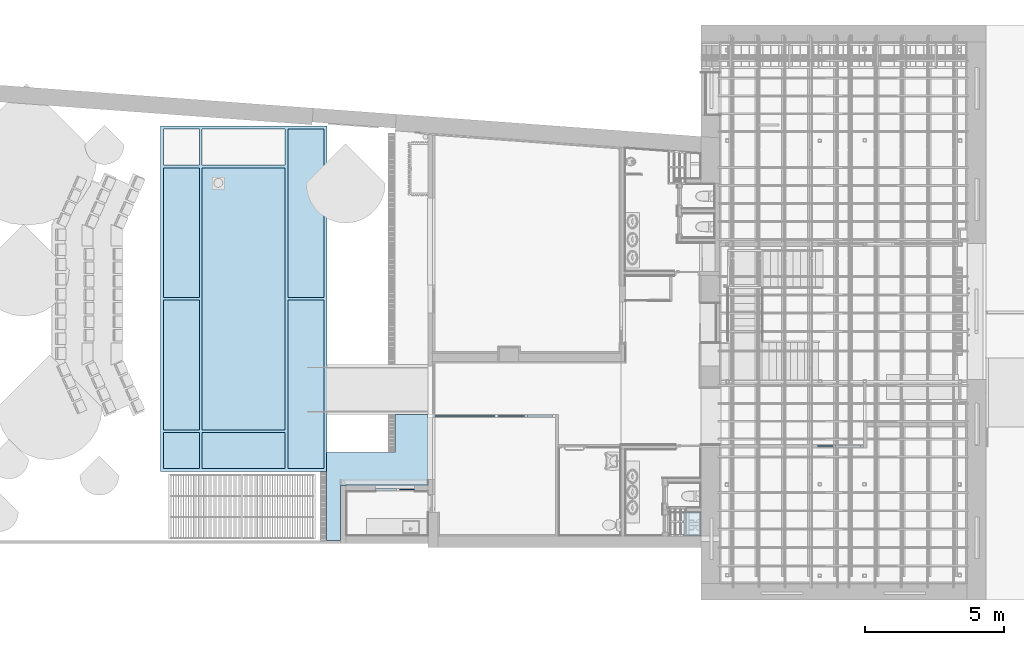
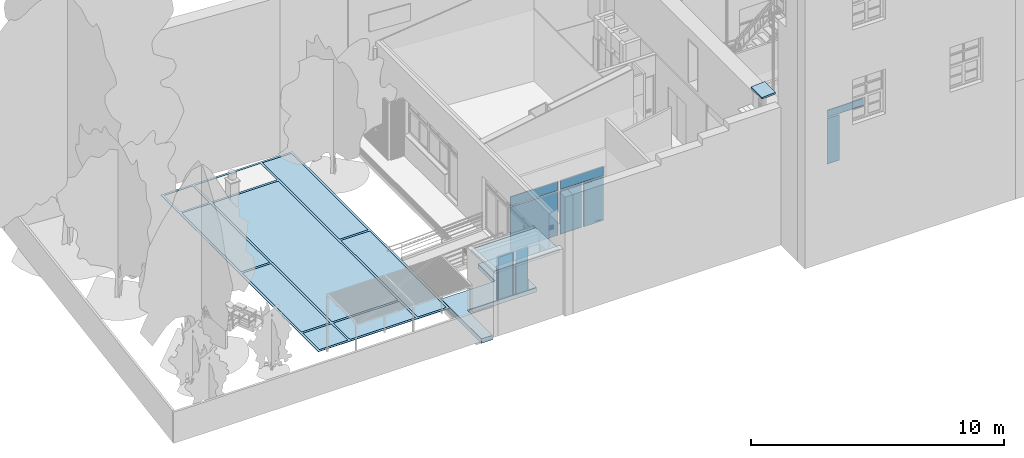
# One storey, part 30 of 75: 12 slabs, 9 plates, 9 openings, 5 elements without a shape of their own.
"""IFC2X3 building model written with IfcOpenShell, lengths in metres."""

import ifcopenshell
import ifcopenshell.guid

model = None  # the IFC model being written
_history = None  # IfcOwnerHistory: only IFC2X3 demands one
_inside = {}  # id of a spatial element -> (the spatial element, [elements in it])
_under = {}  # id of a project, library or spatial element -> (it, [spatial elements below it])
_declared = {}  # id of a project -> (the project, [libraries it declares])
_typed = {}  # id of a type object -> (the type object, [elements of that type])
_made_of = {}  # id of a material, layer set ... -> (it, [elements and type objects made of it])


def new_model(schema):
    """Start an empty IFC model of exactly this schema.

    Asked for "IFC4X3", IfcOpenShell would pick the latest addendum, in which some entities
    have other attributes; the version numbers below select the first issue.
    IFC2X3 requires an IfcOwnerHistory on every rooted entity: one is made here for all.
    """
    global model, _history
    if schema == "IFC4X3":
        model = ifcopenshell.file(schema_version=(4, 3, 0, 0))
    else:
        model = ifcopenshell.file(schema=schema)
    _inside.clear()
    _under.clear()
    _declared.clear()
    _typed.clear()
    _made_of.clear()
    _history = None
    if model.schema == "IFC2X3":
        org = make("IfcOrganization", Name="unknown")
        user = make(
            "IfcPersonAndOrganization",
            ThePerson=make("IfcPerson", FamilyName="unknown"),
            TheOrganization=org,
        )
        app = make(
            "IfcApplication",
            ApplicationDeveloper=org,
            Version="unknown",
            ApplicationFullName="unknown",
            ApplicationIdentifier="unknown",
        )
        _history = make(
            "IfcOwnerHistory",
            OwningUser=user,
            OwningApplication=app,
            ChangeAction="ADDED",
            CreationDate=0,
        )
    return model


def make(cls, **values):
    """One entity of the class cls with the attributes given. An attribute that is None is left unset."""
    return model.create_entity(
        cls, **{name: value for name, value in values.items() if value is not None}
    )


def entity(cls, *values):
    """Any entity or typed value of the class cls, its attributes in the order of the schema. None: left unset."""
    e = model.create_entity(cls)
    for i, value in enumerate(values):
        if value is not None:
            e[i] = value
    return e


def rooted(cls, **values):
    """An entity with a GlobalId (a new one), such as an element, a storey or a relation."""
    return make(cls, GlobalId=ifcopenshell.guid.new(), OwnerHistory=_history, **values)


def si_unit(unit_type, name, prefix=None):
    """IfcSIUnit, for example si_unit("LENGTHUNIT", "METRE", prefix="MILLI")."""
    return make("IfcSIUnit", UnitType=unit_type, Prefix=prefix, Name=name)


def converted_unit(unit_type, name, factor, base, dimensions=None, offset=None):
    """IfcConversionBasedUnit, such as the inch: factor (a typed value) times the base unit."""
    return make(
        "IfcConversionBasedUnit"
        if offset is None
        else "IfcConversionBasedUnitWithOffset",
        ConversionOffset=offset,
        Dimensions=None
        if dimensions is None
        else entity("IfcDimensionalExponents", *dimensions),
        UnitType=unit_type,
        Name=name,
        ConversionFactor=make(
            "IfcMeasureWithUnit", ValueComponent=factor, UnitComponent=base
        ),
    )


def derived_unit(unit_type, elements):
    """IfcDerivedUnit: a product of units, each with its exponent."""
    return make(
        "IfcDerivedUnit",
        Elements=[
            make("IfcDerivedUnitElement", Unit=unit, Exponent=power)
            for unit, power in elements
        ],
        UnitType=unit_type,
    )


def assignment(units):
    """IfcUnitAssignment: the units of a project."""
    return None if units is None else make("IfcUnitAssignment", Units=units)


def point(xyz):
    """IfcCartesianPoint."""
    return None if xyz is None else make("IfcCartesianPoint", Coordinates=xyz)


def direction(xyz):
    """IfcDirection."""
    return None if xyz is None else make("IfcDirection", DirectionRatios=xyz)


def frame(location, z_axis=None, x_axis=None):
    """IfcAxis2Placement3D, a coordinate frame: its origin and axes. An axis left out is left unset."""
    return make(
        "IfcAxis2Placement3D",
        Location=point(location),
        Axis=direction(z_axis),
        RefDirection=direction(x_axis),
    )


def frame_2d(location, x_axis=None):
    """IfcAxis2Placement2D, a coordinate frame in the plane: its origin and x axis."""
    return make(
        "IfcAxis2Placement2D", Location=point(location), RefDirection=direction(x_axis)
    )


def origin():
    """The frame at (0, 0, 0) with its axes left unset."""
    return frame((0.0, 0.0, 0.0))


def origin_2d_with_axis():
    """The frame at (0, 0) in the plane with the x axis (1, 0) written out."""
    return frame_2d((0.0, 0.0), x_axis=(1.0, 0.0))


def place(relative_to, where):
    """IfcLocalPlacement: puts the frame where relative to a parent placement (None: the world)."""
    return make(
        "IfcLocalPlacement", PlacementRelTo=relative_to, RelativePlacement=where
    )


def context(
    kind, dimensions, precision=None, world=None, true_north=None, identifier=None
):
    """IfcGeometricRepresentationContext, for example the 3D "Model" context."""
    return make(
        "IfcGeometricRepresentationContext",
        ContextIdentifier=identifier,
        ContextType=kind,
        CoordinateSpaceDimension=dimensions,
        Precision=precision,
        WorldCoordinateSystem=world,
        TrueNorth=true_north,
    )


def subcontext(parent, identifier, kind, view, scale=None):
    """IfcGeometricRepresentationSubContext, for example "Body" below "Model"."""
    return make(
        "IfcGeometricRepresentationSubContext",
        ContextIdentifier=identifier,
        ContextType=kind,
        ParentContext=parent,
        TargetScale=scale,
        TargetView=view,
    )


def project(units=None, contexts=None):
    """IfcProject with its units and contexts."""
    return rooted(
        "IfcProject",
        Name="project",
        RepresentationContexts=contexts,
        UnitsInContext=assignment(units),
    )


def spatial(cls, under=None, at=None, **own):
    """A site, building, storey or space (cls), placed at a placement, below another one or the project."""
    s = rooted(cls, ObjectPlacement=at, **own)
    if under is not None:
        _under.setdefault(under.id(), (under, []))[1].append(s)
    return s


def polyline(points):
    """IfcPolyline through the points."""
    return make("IfcPolyline", Points=[point(p) for p in points])


def profile(cls, at=None, kind="AREA", **sizes):
    """A parametric profile (cls). Its sizes go by their IFC names, for example OverallWidth=200.0."""
    return make(cls, ProfileType=kind, Position=at, **sizes)


def rectangle(**sizes):
    """IfcRectangleProfileDef."""
    return profile("IfcRectangleProfileDef", **sizes)


def outline(outer, holes=None, kind="AREA"):
    """IfcArbitraryClosedProfileDef: a profile drawn as a closed curve; with holes, ...WithVoids."""
    if holes is None:
        return make("IfcArbitraryClosedProfileDef", ProfileType=kind, OuterCurve=outer)
    return make(
        "IfcArbitraryProfileDefWithVoids",
        ProfileType=kind,
        OuterCurve=outer,
        InnerCurves=holes,
    )


def extrude(swept, where, along, depth):
    """IfcExtrudedAreaSolid: the profile swept, set in the frame where, extruded along a direction by depth."""
    return make(
        "IfcExtrudedAreaSolid",
        SweptArea=swept,
        Position=where,
        ExtrudedDirection=direction(along),
        Depth=depth,
    )


def shape(context_of_items, identifier, shape_type, items):
    """IfcShapeRepresentation: the items that make up one representation, for example the "Body"."""
    return make(
        "IfcShapeRepresentation",
        ContextOfItems=context_of_items,
        RepresentationIdentifier=identifier,
        RepresentationType=shape_type,
        Items=items,
    )


def source(mapping_origin, context_of_items, identifier, shape_type, items):
    """IfcRepresentationMap: a shape defined once, which mapped items show again and again."""
    return make(
        "IfcRepresentationMap",
        MappingOrigin=mapping_origin,
        MappedRepresentation=shape(context_of_items, identifier, shape_type, items),
    )


def transform(
    local_origin,
    x_axis=None,
    y_axis=None,
    z_axis=None,
    scale=None,
    scale2=None,
    scale3=None,
    uniform=True,
):
    """IfcCartesianTransformationOperator3D, or its non-uniform kind. x_axis, y_axis, z_axis: its Axis1, 2, 3."""
    if uniform:
        return make(
            "IfcCartesianTransformationOperator3D",
            Axis1=direction(x_axis),
            Axis2=direction(y_axis),
            LocalOrigin=point(local_origin),
            Scale=scale,
            Axis3=direction(z_axis),
        )
    return make(
        "IfcCartesianTransformationOperator3DnonUniform",
        Axis1=direction(x_axis),
        Axis2=direction(y_axis),
        LocalOrigin=point(local_origin),
        Scale=scale,
        Axis3=direction(z_axis),
        Scale2=scale2,
        Scale3=scale3,
    )


def mapped(mapping_source, mapping_target):
    """IfcMappedItem: shows the shape of a source again, moved by a transform."""
    return make(
        "IfcMappedItem", MappingSource=mapping_source, MappingTarget=mapping_target
    )


def material(Name=None, Category=None):
    """IfcMaterial."""
    return make("IfcMaterial", Name=Name, Category=Category)


def material_list(materials):
    """IfcMaterialList."""
    return make("IfcMaterialList", Materials=materials)


def layer(
    of_material, thickness, ventilated=None, Name=None, Category=None, Priority=None
):
    """IfcMaterialLayer: one layer of a wall or slab, of a material (None: an air gap)."""
    return make(
        "IfcMaterialLayer",
        Material=of_material,
        LayerThickness=thickness,
        IsVentilated=ventilated,
        Name=Name,
        Category=Category,
        Priority=Priority,
    )


def layer_set(layers, Name=None):
    """IfcMaterialLayerSet."""
    return make("IfcMaterialLayerSet", MaterialLayers=layers, LayerSetName=Name)


def layer_usage(for_layer_set, set_direction, sense, offset, extent=None):
    """IfcMaterialLayerSetUsage: how a layer set lies in its element."""
    return make(
        "IfcMaterialLayerSetUsage",
        ForLayerSet=for_layer_set,
        LayerSetDirection=set_direction,
        DirectionSense=sense,
        OffsetFromReferenceLine=offset,
        ReferenceExtent=extent,
    )


def made_of(thing, what):
    """Note that an element or type object is made of a material, layer set ...; save() writes the relation."""
    if what is not None:
        _made_of.setdefault(what.id(), (what, []))[1].append(thing)
    return thing


def type_object(cls, material=None, **own):
    """A type object (cls), such as IfcWallType, which elements share."""
    return made_of(rooted(cls, **own), material)


def type_shapes(of_type, sources):
    """Give a type object the sources (RepresentationMaps) that its elements show as mapped items."""
    of_type.RepresentationMaps = sources


def element(
    cls,
    number,
    at=None,
    inside=None,
    cuts=None,
    type_object=None,
    material=None,
    context=None,
    identifier="Body",
    shape_type=None,
    held_by="IfcProductDefinitionShape",
    body=None,
    shapes=None,
    **own,
):
    """One element of the class cls, such as IfcWall. Its Tag is "e" and its number.

    at: its placement. inside: the storey or other place that contains it. cuts: it is an
    opening in that element (IfcRelVoidsElement). A single representation is given by context,
    identifier, shape_type and body (its items); several are given by shapes. held_by: the class
    of the entity that holds the representations. save() writes the other relations.
    """
    e = rooted(cls, Tag="e%d" % number, ObjectPlacement=at, **own)
    if body is not None:
        shapes = [shape(context, identifier, shape_type, body)]
    if shapes is not None:
        e.Representation = make(held_by, Representations=shapes)
    if inside is not None:
        _inside.setdefault(inside.id(), (inside, []))[1].append(e)
    if cuts is not None:
        rooted(
            "IfcRelVoidsElement", RelatingBuildingElement=cuts, RelatedOpeningElement=e
        )
    if type_object is not None:
        _typed.setdefault(type_object.id(), (type_object, []))[1].append(e)
    return made_of(e, material)


def aggregate(whole, parts):
    """IfcRelAggregates: a whole, such as a stair, and the parts it consists of."""
    return rooted("IfcRelAggregates", RelatingObject=whole, RelatedObjects=parts)


def save(model, path):
    """Write the relations noted so far, then the file.

    IfcRelAggregates (storeys below a building ...), IfcRelContainedInSpatialStructure (elements
    in a storey), IfcRelDefinesByType, IfcRelAssociatesMaterial and IfcRelDeclares: one each for
    every whole, place, type object, material and project.
    """
    for whole, parts in _under.values():
        aggregate(whole, parts)
    for where, things in _inside.values():
        rooted(
            "IfcRelContainedInSpatialStructure",
            RelatedElements=things,
            RelatingStructure=where,
        )
    for kind, things in _typed.values():
        rooted("IfcRelDefinesByType", RelatedObjects=things, RelatingType=kind)
    for what, things in _made_of.values():
        rooted("IfcRelAssociatesMaterial", RelatedObjects=things, RelatingMaterial=what)
    for by, libraries in _declared.values():
        rooted("IfcRelDeclares", RelatingContext=by, RelatedDefinitions=libraries)
    model.write(path)


model = new_model("IFC2X3")

# Units and contexts
model_context = context("Model", 3, precision=1e-05, world=origin(), true_north=direction((6.12303176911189e-17, 1.0)))
body_context = subcontext(model_context, "Body", "Model", "MODEL_VIEW")
ifc_project = project(units=[si_unit("LENGTHUNIT", "METRE"), si_unit("AREAUNIT", "SQUARE_METRE"), si_unit("VOLUMEUNIT", "CUBIC_METRE"), converted_unit("PLANEANGLEUNIT", "DEGREE", entity("IfcRatioMeasure", 0.0174532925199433), si_unit("PLANEANGLEUNIT", "RADIAN"), dimensions=[0, 0, 0, 0, 0, 0, 0]), si_unit("MASSUNIT", "GRAM", prefix="KILO"), derived_unit("MASSDENSITYUNIT", [(si_unit("MASSUNIT", "GRAM", prefix="KILO"), 1), (si_unit("LENGTHUNIT", "METRE"), -3)]), derived_unit("MOMENTOFINERTIAUNIT", [(si_unit("LENGTHUNIT", "METRE"), 4)]), si_unit("TIMEUNIT", "SECOND"), si_unit("FREQUENCYUNIT", "HERTZ"), si_unit("THERMODYNAMICTEMPERATUREUNIT", "DEGREE_CELSIUS"), derived_unit("THERMALTRANSMITTANCEUNIT", [(si_unit("MASSUNIT", "GRAM", prefix="KILO"), 1), (si_unit("THERMODYNAMICTEMPERATUREUNIT", "KELVIN"), -1), (si_unit("TIMEUNIT", "SECOND"), -3)]), derived_unit("VOLUMETRICFLOWRATEUNIT", [(si_unit("LENGTHUNIT", "METRE"), 3), (si_unit("TIMEUNIT", "SECOND"), -1)]), si_unit("ELECTRICCURRENTUNIT", "AMPERE"), si_unit("ELECTRICVOLTAGEUNIT", "VOLT"), si_unit("POWERUNIT", "WATT"), si_unit("FORCEUNIT", "NEWTON", prefix="KILO"), si_unit("ILLUMINANCEUNIT", "LUX"), si_unit("LUMINOUSFLUXUNIT", "LUMEN"), si_unit("LUMINOUSINTENSITYUNIT", "CANDELA"), derived_unit("USERDEFINED", [(si_unit("MASSUNIT", "GRAM", prefix="KILO"), -1), (si_unit("LENGTHUNIT", "METRE"), -2), (si_unit("TIMEUNIT", "SECOND"), 3), (si_unit("LUMINOUSFLUXUNIT", "LUMEN"), 1)]), derived_unit("LINEARVELOCITYUNIT", [(si_unit("LENGTHUNIT", "METRE"), 1), (si_unit("TIMEUNIT", "SECOND"), -1)]), si_unit("PRESSUREUNIT", "PASCAL"), derived_unit("USERDEFINED", [(si_unit("LENGTHUNIT", "METRE"), -2), (si_unit("MASSUNIT", "GRAM", prefix="KILO"), 1), (si_unit("TIMEUNIT", "SECOND"), -2)]), derived_unit("LINEARFORCEUNIT", [(si_unit("MASSUNIT", "GRAM", prefix="KILO"), 1), (si_unit("LENGTHUNIT", "METRE"), 1), (si_unit("TIMEUNIT", "SECOND"), -2), (si_unit("LENGTHUNIT", "METRE"), -1)]), derived_unit("PLANARFORCEUNIT", [(si_unit("MASSUNIT", "GRAM", prefix="KILO"), 1), (si_unit("LENGTHUNIT", "METRE"), 1), (si_unit("TIMEUNIT", "SECOND"), -2), (si_unit("LENGTHUNIT", "METRE"), -2)])], contexts=[model_context])

# Site, building, storey
site_placement = place(None, origin())
site = spatial("IfcSite", under=ifc_project, at=site_placement, Name="Superficie", CompositionType="ELEMENT")
building_placement = place(site_placement, origin())
building = spatial("IfcBuilding", under=site, at=building_placement, Name="Telegestiones", CompositionType="ELEMENT")
storey_placement = place(building_placement, origin())
storey = spatial("IfcBuildingStorey", under=building, at=storey_placement, Name="Nivel 0_NPT", CompositionType="ELEMENT", Elevation=0.0)

# Roof, slab
roof_1_placement = place(storey_placement, frame((-7.44518737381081, -4.086392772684, 2.55)))
roof_1 = element("IfcRoof", 1, at=roof_1_placement, inside=storey, Name="Cubierta básica:ARQ-CU-EX-15-Iso", ObjectType="Cubierta básica:ARQ-CU-EX-15-Iso", ShapeType="NOTDEFINED")
ifc_material_1 = material(Name="Plástico, blanco opaco")
ifc_layer_1 = layer(ifc_material_1, 0.01)
ifc_material_2 = material(Name="EIFS, aislamiento exterior")
ifc_layer_2 = layer(ifc_material_2, 0.13)
ifc_layer_3 = layer(ifc_material_1, 0.01)
ifc_layer_set_1 = layer_set([ifc_layer_1, ifc_layer_2, ifc_layer_3], Name="Cubierta básica:ARQ-CU-EX-15-Iso")
slab_type_1 = type_object("IfcSlabType", Name="Cubierta básica:ARQ-CU-EX-15-Iso", PredefinedType="ROOF")
slab_1_placement = place(roof_1_placement, origin())
slab_1 = element("IfcSlab", 2, at=slab_1_placement, type_object=slab_type_1, material=ifc_layer_set_1, Name="Cubierta básica:ARQ-CU-EX-15-Iso", ObjectType="Cubierta básica:ARQ-CU-EX-15-Iso", PredefinedType="ROOF", context=body_context, shape_type="SweptSolid", body=[
    extrude(rectangle(XDim=1.86232354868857, YDim=2.95999999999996, at=frame_2d((0.0, 2.77555756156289e-16), x_axis=(0.0, 1.0))), frame((1.47999999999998, 0.93, 0.0465000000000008), z_axis=(0.0, 0.0499376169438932, 0.998752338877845), x_axis=(1.0, 0.0, 0.0)), (0.0, -0.0499376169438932, 0.998752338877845), 0.150187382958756),
])
aggregate(roof_1, [slab_1])

# Slab
ifc_material_3 = material(Name="Baldosones de hormigón 40x40")
ifc_layer_4 = layer(ifc_material_3, 0.02)
ifc_layer_set_2 = layer_set([ifc_layer_4], Name="Suelo:ARQ-SU-EX-2x40x40-BaldHorm")
ifc_layer_usage_1 = layer_usage(ifc_layer_set_2, "AXIS3", "POSITIVE", 0.0)
slab_type_2 = type_object("IfcSlabType", Name="Suelo:ARQ-SU-EX-2x40x40-BaldHorm", PredefinedType="FLOOR")
slab_2_placement = place(storey_placement, frame((-8.14518737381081, -4.25639277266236, -0.17)))
element("IfcSlab", 3, at=slab_2_placement, inside=storey, type_object=slab_type_2, material=ifc_layer_usage_1, Name="Suelo:ARQ-SU-EX-2x40x40-BaldHorm", ObjectType="Suelo:ARQ-SU-EX-2x40x40-BaldHorm", PredefinedType="FLOOR", context=body_context, shape_type="SweptSolid", body=[
    extrude(outline(polyline([(-0.629999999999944, -2.84388084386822), (-1.82999999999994, -2.84388084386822), (-1.82999999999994, -5.40388084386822), (1.32999999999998, -5.40388084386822), (1.32999999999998, -7.39388084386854), (1.82999999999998, -7.39388084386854), (1.82999999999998, -4.89249466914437), (1.82999999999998, -4.21388084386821), (-0.629999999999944, -4.21388084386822), (-0.629999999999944, -2.84388084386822)])), frame((1.82999999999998, 7.39388084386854, 0.02), z_axis=(0.0, 0.0, -1.0), x_axis=(-1.0, 0.0, 0.0)), (0.0, 0.0, 1.0), 0.02),
])

# Curtain wall, plates
curtain_wall_type_1 = type_object("IfcCurtainWallType", PredefinedType="NOTDEFINED")
curtain_wall_1_placement = place(storey_placement, origin())
curtain_wall_1 = element("IfcCurtainWall", 4, at=curtain_wall_1_placement, inside=storey, type_object=curtain_wall_type_1)
ifc_material_4 = material(Name="Aluminio")
ifc_material_5 = material(Name="Vidrio")
ifc_material_list_1 = material_list([ifc_material_4, ifc_material_5, ifc_material_4, ifc_material_4])
ifc_material_list_2 = material_list([ifc_material_4, ifc_material_5])
plate_type_1 = type_object("IfcPlateType", Name="ARQ-PA-IN-AluVid-Puerta:ARQ-PA-IN-AluVid-Puerta", PredefinedType="CURTAIN_PANEL", material=ifc_material_list_2)
shared_shape_1 = source(origin(), body_context, "Body", "SweptSolid", [
    extrude(outline(polyline([(-0.375000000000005, -1.06), (0.374999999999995, -1.06), (0.374999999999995, 1.04), (0.335000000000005, 1.04), (0.335000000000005, -1.02), (-0.334999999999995, -1.02), (-0.334999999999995, 1.04), (-0.375000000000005, 1.04), (-0.375000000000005, -1.06)])), frame((0.0, -0.033, 1.04), z_axis=(0.0, 1.0, 0.0), x_axis=(1.0, 0.0, 0.0)), (0.0, 0.0, 1.0), 0.066),
    extrude(rectangle(XDim=0.489999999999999, YDim=0.015, at=frame_2d((0.0, -8.67361737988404e-19), x_axis=(1.0, 0.0))), frame((0.0, -0.0175, 0.0900000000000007), z_axis=(0.0, 0.0, 1.0), x_axis=(-1.0, 0.0, 0.0)), (0.0, 0.0, 1.0), 1.88),
    extrude(outline(polyline([(-0.265, -0.96), (0.265, -0.96), (0.265, 0.96), (-0.265, 0.96), (-0.265, -0.96)]), holes=[polyline([(-0.245, -0.94), (-0.245, 0.94), (0.245, 0.94), (0.245, -0.94), (-0.245, -0.94)])]), frame((0.0, -0.03, 1.03), z_axis=(0.0, 1.0, 0.0), x_axis=(1.0, 0.0, 0.0)), (0.0, 0.0, 1.0), 0.025),
    extrude(outline(polyline([(-0.335, -1.03), (0.335, -1.03), (0.335, 1.03), (-0.335, 1.03), (-0.335, -1.03)]), holes=[polyline([(-0.265, -0.96), (-0.265, 0.96), (0.265, 0.96), (0.265, -0.96), (-0.265, -0.96)])]), frame((0.0, -0.035, 1.03), z_axis=(0.0, 1.0, 0.0), x_axis=(1.0, 0.0, 0.0)), (0.0, 0.0, 1.0), 0.035),
])
type_shapes(plate_type_1, [shared_shape_1])
plate_1_placement = place(curtain_wall_1_placement, frame((-6.0001873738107, -2.41639277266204, -0.02), z_axis=(0.0, 0.0, 1.0), x_axis=(-1.0, 0.0, 0.0)))
plate_1 = element("IfcPlate", 5, at=plate_1_placement, type_object=plate_type_1, material=ifc_material_list_1, Name="ARQ-PA-IN-AluVid-Puerta:ARQ-PA-IN-AluVid-Puerta", ObjectType="ARQ-PA-IN-AluVid-Puerta:ARQ-PA-IN-AluVid-Puerta", context=body_context, shape_type="MappedRepresentation", body=[
    mapped(shared_shape_1, transform((0.0, 0.0, 0.0), scale=1.0)),
])
ifc_material_list_3 = material_list([ifc_material_5, ifc_material_4])
ifc_material_list_4 = material_list([ifc_material_5, ifc_material_4])
plate_type_2 = type_object("IfcPlateType", Name="ARQ-PA-IN-Vidrio Fijo:ARQ-PA-IN-Vidrio Fijo", PredefinedType="CURTAIN_PANEL", material=ifc_material_list_4)
shared_shape_2 = source(origin(), body_context, "Body", "SweptSolid", [
    extrude(rectangle(XDim=0.550000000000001, YDim=0.02, at=origin_2d_with_axis()), frame((0.0, 0.0, 0.0), z_axis=(0.0, 0.0, 1.0), x_axis=(-1.0, 0.0, 0.0)), (0.0, 0.0, 1.0), 2.1),
    extrude(outline(polyline([(-0.275000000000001, -1.05), (0.275000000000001, -1.05), (0.275000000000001, 1.05), (-0.275000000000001, 1.05), (-0.275000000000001, -1.05)]), holes=[polyline([(-0.254999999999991, -1.03), (-0.254999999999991, 1.03), (0.25500000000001, 1.03), (0.25500000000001, -1.03), (-0.254999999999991, -1.03)])]), frame((0.0, -0.0175, 1.05), z_axis=(0.0, 1.0, 0.0), x_axis=(1.0, 0.0, 0.0)), (0.0, 0.0, 1.0), 0.035),
])
type_shapes(plate_type_2, [shared_shape_2])
plate_2_placement = place(curtain_wall_1_placement, frame((-5.2501873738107, -2.41639277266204, -0.02)))
plate_2 = element("IfcPlate", 6, at=plate_2_placement, type_object=plate_type_2, material=ifc_material_list_3, Name="ARQ-PA-IN-Vidrio Fijo:ARQ-PA-IN-Vidrio Fijo", ObjectType="ARQ-PA-IN-Vidrio Fijo:ARQ-PA-IN-Vidrio Fijo", context=body_context, shape_type="MappedRepresentation", body=[
    mapped(shared_shape_2, transform((0.0, 0.0, 0.0), scale=1.0)),
])
aggregate(curtain_wall_1, [plate_1, plate_2])

curtain_wall_type_2 = type_object("IfcCurtainWallType", PredefinedType="NOTDEFINED")
curtain_wall_2_placement = place(storey_placement, origin())
curtain_wall_2 = element("IfcCurtainWall", 7, at=curtain_wall_2_placement, inside=storey, type_object=curtain_wall_type_2)
ifc_material_6 = material(Name="Vidrio laminado")
ifc_material_list_5 = material_list([ifc_material_6, ifc_material_4])
ifc_material_list_6 = material_list([ifc_material_6, ifc_material_4])
plate_type_3 = type_object("IfcPlateType", Name="ARQ-PA-IN-Vidrio Fijo Laminado :ARQ-PA-IN-Vidrio Fijo Laminado", PredefinedType="CURTAIN_PANEL", material=ifc_material_list_6)
shared_shape_3 = source(origin(), body_context, "Body", "SweptSolid", [
    extrude(rectangle(XDim=2.13091991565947, YDim=0.02, at=origin_2d_with_axis()), frame((0.0, 0.0, 0.0200000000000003), z_axis=(0.0, 0.0, 1.0), x_axis=(-1.0, 0.0, 0.0)), (0.0, 0.0, 1.0), 2.06),
    extrude(outline(polyline([(-1.08545995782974, -1.05), (1.08545995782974, -1.05), (1.08545995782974, 1.05), (-1.08545995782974, 1.05), (-1.08545995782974, -1.05)]), holes=[polyline([(-1.06545995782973, -1.03), (-1.06545995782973, 1.03), (1.06545995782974, 1.03), (1.06545995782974, -1.03), (-1.06545995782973, -1.03)])]), frame((0.0, -0.0175, 1.05), z_axis=(0.0, 1.0, 0.0), x_axis=(1.0, 0.0, 0.0)), (0.0, 0.0, 1.0), 0.035),
])
type_shapes(plate_type_3, [shared_shape_3])
plate_3_placement = place(curtain_wall_2_placement, frame((-3.14972741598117, 0.24406301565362, 0.0)))
plate_3 = element("IfcPlate", 8, at=plate_3_placement, type_object=plate_type_3, material=ifc_material_list_5, Name="ARQ-PA-IN-Vidrio Fijo Laminado :ARQ-PA-IN-Vidrio Fijo Laminado", ObjectType="ARQ-PA-IN-Vidrio Fijo Laminado :ARQ-PA-IN-Vidrio Fijo Laminado", context=body_context, shape_type="MappedRepresentation", body=[
    mapped(shared_shape_3, transform((0.0, 0.0, 0.0), scale=1.0)),
])
ifc_material_list_7 = material_list([ifc_material_6, ifc_material_4])
ifc_material_list_8 = material_list([ifc_material_6, ifc_material_4])
plate_type_4 = type_object("IfcPlateType", Name="ARQ-PA-IN-Vidrio Fijo Laminado :ARQ-PA-IN-Vidrio Fijo Laminado", PredefinedType="CURTAIN_PANEL", material=ifc_material_list_8)
shared_shape_4 = source(origin(), body_context, "Body", "SweptSolid", [
    extrude(rectangle(XDim=0.925917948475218, YDim=0.02, at=origin_2d_with_axis()), frame((0.0, 0.0, 0.0200000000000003), z_axis=(0.0, 0.0, 1.0), x_axis=(-1.0, 0.0, 0.0)), (0.0, 0.0, 1.0), 2.06),
    extrude(outline(polyline([(-0.482958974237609, -1.05), (0.482958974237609, -1.05), (0.482958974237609, 1.05), (-0.482958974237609, 1.05), (-0.482958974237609, -1.05)]), holes=[polyline([(-0.462958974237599, -1.03), (-0.462958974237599, 1.03), (0.462958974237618, 1.03), (0.462958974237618, -1.03), (-0.462958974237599, -1.03)])]), frame((0.0, -0.0175, 1.05), z_axis=(0.0, 1.0, 0.0), x_axis=(1.0, 0.0, 0.0)), (0.0, 0.0, 1.0), 0.035),
])
type_shapes(plate_type_4, [shared_shape_4])
plate_4_placement = place(curtain_wall_2_placement, frame((-1.48130848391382, 0.244063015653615, 0.0)))
plate_4 = element("IfcPlate", 9, at=plate_4_placement, type_object=plate_type_4, material=ifc_material_list_7, Name="ARQ-PA-IN-Vidrio Fijo Laminado :ARQ-PA-IN-Vidrio Fijo Laminado", ObjectType="ARQ-PA-IN-Vidrio Fijo Laminado :ARQ-PA-IN-Vidrio Fijo Laminado", context=body_context, shape_type="MappedRepresentation", body=[
    mapped(shared_shape_4, transform((0.0, 0.0, 0.0), scale=1.0)),
])
ifc_material_list_9 = material_list([ifc_material_4, ifc_material_5, ifc_material_4, ifc_material_4])
ifc_material_list_10 = material_list([ifc_material_4, ifc_material_5])
plate_type_5 = type_object("IfcPlateType", Name="ARQ-PA-IN-AluVid-Puerta:ARQ-PA-IN-AluVid-Puerta", PredefinedType="CURTAIN_PANEL", material=ifc_material_list_10)
shared_shape_5 = source(origin(), body_context, "Body", "SweptSolid", [
    extrude(outline(polyline([(-0.452500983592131, -1.06), (0.452500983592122, -1.06), (0.452500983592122, 1.04), (0.412500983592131, 1.04), (0.412500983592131, -1.02), (-0.412500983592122, -1.02), (-0.412500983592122, 1.04), (-0.452500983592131, 1.04), (-0.452500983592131, -1.06)])), frame((0.0, -0.033, 1.04), z_axis=(0.0, 1.0, 0.0), x_axis=(1.0, 0.0, 0.0)), (0.0, 0.0, 1.0), 0.066),
    extrude(rectangle(XDim=0.645001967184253, YDim=0.015, at=frame_2d((0.0, -8.67361737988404e-19), x_axis=(1.0, 0.0))), frame((0.0, -0.0175, 0.0900000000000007), z_axis=(0.0, 0.0, 1.0), x_axis=(-1.0, 0.0, 0.0)), (0.0, 0.0, 1.0), 1.88),
    extrude(outline(polyline([(-0.342500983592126, -0.96), (0.342500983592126, -0.96), (0.342500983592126, 0.96), (-0.342500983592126, 0.96), (-0.342500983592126, -0.96)]), holes=[polyline([(-0.322500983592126, -0.94), (-0.322500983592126, 0.94), (0.322500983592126, 0.94), (0.322500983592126, -0.94), (-0.322500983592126, -0.94)])]), frame((0.0, -0.03, 1.03), z_axis=(0.0, 1.0, 0.0), x_axis=(1.0, 0.0, 0.0)), (0.0, 0.0, 1.0), 0.025),
    extrude(outline(polyline([(-0.412500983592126, -1.03), (0.412500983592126, -1.03), (0.412500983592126, 1.03), (-0.412500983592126, 1.03), (-0.412500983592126, -1.03)]), holes=[polyline([(-0.342500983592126, -0.96), (-0.342500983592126, 0.96), (0.342500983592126, 0.96), (0.342500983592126, -0.96), (-0.342500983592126, -0.96)])]), frame((0.0, -0.035, 1.03), z_axis=(0.0, 1.0, 0.0), x_axis=(1.0, 0.0, 0.0)), (0.0, 0.0, 1.0), 0.035),
])
type_shapes(plate_type_5, [shared_shape_5])
plate_5_placement = place(curtain_wall_2_placement, frame((-0.445848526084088, 0.244063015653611, 0.0)))
plate_5 = element("IfcPlate", 10, at=plate_5_placement, type_object=plate_type_5, material=ifc_material_list_9, Name="ARQ-PA-IN-AluVid-Puerta:ARQ-PA-IN-AluVid-Puerta", ObjectType="ARQ-PA-IN-AluVid-Puerta:ARQ-PA-IN-AluVid-Puerta", context=body_context, shape_type="MappedRepresentation", body=[
    mapped(shared_shape_5, transform((0.0, 0.0, 0.0), scale=1.0)),
])
ifc_material_list_11 = material_list([ifc_material_5, ifc_material_4])
ifc_material_list_12 = material_list([ifc_material_5, ifc_material_4])
plate_type_6 = type_object("IfcPlateType", Name="ARQ-PA-IN-Vidrio Fijo:ARQ-PA-IN-Vidrio Fijo", PredefinedType="CURTAIN_PANEL", material=ifc_material_list_12)
shared_shape_6 = source(origin(), body_context, "Body", "SweptSolid", [
    extrude(rectangle(XDim=2.17091991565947, YDim=0.02, at=origin_2d_with_axis()), frame((0.0, 0.0, 0.0), z_axis=(0.0, 0.0, 1.0), x_axis=(-1.0, 0.0, 0.0)), (0.0, 0.0, 1.0), 0.45),
    extrude(outline(polyline([(-1.08545995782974, -0.225), (1.08545995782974, -0.225), (1.08545995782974, 0.225), (-1.08545995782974, 0.225), (-1.08545995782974, -0.225)]), holes=[polyline([(-1.06545995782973, -0.205), (-1.06545995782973, 0.205), (1.06545995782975, 0.205), (1.06545995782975, -0.205), (-1.06545995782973, -0.205)])]), frame((0.0, -0.0175, 0.225), z_axis=(0.0, 1.0, 0.0), x_axis=(1.0, 0.0, 0.0)), (0.0, 0.0, 1.0), 0.035),
])
type_shapes(plate_type_6, [shared_shape_6])
plate_6_placement = place(curtain_wall_2_placement, frame((-3.14972741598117, 0.24406301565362, 2.15)))
plate_6 = element("IfcPlate", 11, at=plate_6_placement, type_object=plate_type_6, material=ifc_material_list_11, Name="ARQ-PA-IN-Vidrio Fijo:ARQ-PA-IN-Vidrio Fijo", ObjectType="ARQ-PA-IN-Vidrio Fijo:ARQ-PA-IN-Vidrio Fijo", context=body_context, shape_type="MappedRepresentation", body=[
    mapped(shared_shape_6, transform((0.0, 0.0, 0.0), scale=1.0)),
])
ifc_material_list_13 = material_list([ifc_material_5, ifc_material_4])
ifc_material_list_14 = material_list([ifc_material_5, ifc_material_4])
plate_type_7 = type_object("IfcPlateType", Name="ARQ-PA-IN-Vidrio Fijo:ARQ-PA-IN-Vidrio Fijo", PredefinedType="CURTAIN_PANEL", material=ifc_material_list_14)
shared_shape_7 = source(origin(), body_context, "Body", "SweptSolid", [
    extrude(rectangle(XDim=1.97091991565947, YDim=0.02, at=origin_2d_with_axis()), frame((0.0, 0.0, 0.0), z_axis=(0.0, 0.0, 1.0), x_axis=(-1.0, 0.0, 0.0)), (0.0, 0.0, 1.0), 0.45),
    extrude(outline(polyline([(-0.985459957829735, -0.225), (0.985459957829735, -0.225), (0.985459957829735, 0.225), (-0.985459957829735, 0.225), (-0.985459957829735, -0.225)]), holes=[polyline([(-0.965459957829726, -0.205), (-0.965459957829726, 0.205), (0.965459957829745, 0.205), (0.965459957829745, -0.205), (-0.965459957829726, -0.205)])]), frame((0.0, -0.0175, 0.225), z_axis=(0.0, 1.0, 0.0), x_axis=(1.0, 0.0, 0.0)), (0.0, 0.0, 1.0), 0.035),
])
type_shapes(plate_type_7, [shared_shape_7])
plate_7_placement = place(curtain_wall_2_placement, frame((-0.978807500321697, 0.244063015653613, 2.15)))
plate_7 = element("IfcPlate", 12, at=plate_7_placement, type_object=plate_type_7, material=ifc_material_list_13, Name="ARQ-PA-IN-Vidrio Fijo:ARQ-PA-IN-Vidrio Fijo", ObjectType="ARQ-PA-IN-Vidrio Fijo:ARQ-PA-IN-Vidrio Fijo", context=body_context, shape_type="MappedRepresentation", body=[
    mapped(shared_shape_7, transform((0.0, 0.0, 0.0), scale=1.0)),
])
aggregate(curtain_wall_2, [plate_3, plate_4, plate_5, plate_6, plate_7])

curtain_wall_type_3 = type_object("IfcCurtainWallType", PredefinedType="NOTDEFINED")
curtain_wall_3_placement = place(storey_placement, origin())
curtain_wall_3 = element("IfcCurtainWall", 13, at=curtain_wall_3_placement, inside=storey, type_object=curtain_wall_type_3)
ifc_material_list_15 = material_list([ifc_material_6, ifc_material_4])
ifc_material_list_16 = material_list([ifc_material_6, ifc_material_4])
plate_type_8 = type_object("IfcPlateType", Name="ARQ-PA-IN-Vidrio Fijo Laminado :ARQ-PA-IN-Vidrio Fijo Laminado", PredefinedType="CURTAIN_PANEL", material=ifc_material_list_16)
shared_shape_8 = source(origin(), body_context, "Body", "SweptSolid", [
    extrude(rectangle(XDim=0.510000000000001, YDim=0.02, at=origin_2d_with_axis()), frame((0.0, 0.0, 0.0200000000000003), z_axis=(0.0, 0.0, 1.0), x_axis=(-1.0, 0.0, 0.0)), (0.0, 0.0, 1.0), 2.16),
    extrude(outline(polyline([(-0.275, -1.1), (0.275, -1.1), (0.275, 1.1), (-0.275, 1.1), (-0.275, -1.1)]), holes=[polyline([(-0.254999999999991, -1.08), (-0.254999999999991, 1.08), (0.25500000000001, 1.08), (0.25500000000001, -1.08), (-0.254999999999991, -1.08)])]), frame((0.0, -0.0175, 1.1), z_axis=(0.0, 1.0, 0.0), x_axis=(1.0, 0.0, 0.0)), (0.0, 0.0, 1.0), 0.035),
])
type_shapes(plate_type_8, [shared_shape_8])
plate_8_placement = place(curtain_wall_3_placement, frame((9.8488493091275, -0.846462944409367, 0.0), z_axis=(0.0, 0.0, 1.0), x_axis=(-1.0, 0.0, 0.0)))
plate_8 = element("IfcPlate", 14, at=plate_8_placement, type_object=plate_type_8, material=ifc_material_list_15, Name="ARQ-PA-IN-Vidrio Fijo Laminado :ARQ-PA-IN-Vidrio Fijo Laminado", ObjectType="ARQ-PA-IN-Vidrio Fijo Laminado :ARQ-PA-IN-Vidrio Fijo Laminado", context=body_context, shape_type="MappedRepresentation", body=[
    mapped(shared_shape_8, transform((0.0, 0.0, 0.0), scale=1.0)),
])
ifc_material_list_17 = material_list([ifc_material_5, ifc_material_4])
ifc_material_list_18 = material_list([ifc_material_5, ifc_material_4])
plate_type_9 = type_object("IfcPlateType", Name="ARQ-PA-IN-Vidrio Fijo:ARQ-PA-IN-Vidrio Fijo", PredefinedType="CURTAIN_PANEL", material=ifc_material_list_18)
shared_shape_9 = source(origin(), body_context, "Body", "SweptSolid", [
    extrude(rectangle(XDim=1.65, YDim=0.02, at=origin_2d_with_axis()), frame((0.0, 0.0, 0.0), z_axis=(0.0, 0.0, 1.0), x_axis=(-1.0, 0.0, 0.0)), (0.0, 0.0, 1.0), 0.35),
    extrude(outline(polyline([(-0.825, -0.175), (0.825, -0.175), (0.825, 0.175), (-0.825, 0.175), (-0.825, -0.175)]), holes=[polyline([(-0.80499999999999, -0.155), (-0.80499999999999, 0.155), (0.805000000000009, 0.155), (0.805000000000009, -0.155), (-0.80499999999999, -0.155)])]), frame((0.0, -0.0175, 0.175), z_axis=(0.0, 1.0, 0.0), x_axis=(1.0, 0.0, 0.0)), (0.0, 0.0, 1.0), 0.035),
])
type_shapes(plate_type_9, [shared_shape_9])
plate_9_placement = place(curtain_wall_3_placement, frame((10.3988493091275, -0.846462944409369, 2.25), z_axis=(0.0, 0.0, 1.0), x_axis=(-1.0, 0.0, 0.0)))
plate_9 = element("IfcPlate", 15, at=plate_9_placement, type_object=plate_type_9, material=ifc_material_list_17, Name="ARQ-PA-IN-Vidrio Fijo:ARQ-PA-IN-Vidrio Fijo", ObjectType="ARQ-PA-IN-Vidrio Fijo:ARQ-PA-IN-Vidrio Fijo", context=body_context, shape_type="MappedRepresentation", body=[
    mapped(shared_shape_9, transform((0.0, 0.0, 0.0), scale=1.0)),
])
aggregate(curtain_wall_3, [plate_8, plate_9])

# Slabs
ifc_material_7 = material(Name="Suelo por defecto")
ifc_layer_5 = layer(ifc_material_7, 0.2)
ifc_layer_set_3 = layer_set([ifc_layer_5], Name="Suelo:ARQ-SU-20 HoA")
ifc_layer_usage_2 = layer_usage(ifc_layer_set_3, "AXIS3", "POSITIVE", 0.0)
slab_type_3 = type_object("IfcSlabType", Name="Suelo:ARQ-SU-20 HoA", PredefinedType="FLOOR")
slab_3_placement = place(storey_placement, frame((-8.14518737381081, -4.25639277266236, -0.37)))
element("IfcSlab", 16, at=slab_3_placement, inside=storey, type_object=slab_type_3, material=ifc_layer_usage_2, Name="Suelo:ARQ-SU-20 HoA", ObjectType="Suelo:ARQ-SU-20 HoA", PredefinedType="FLOOR", context=body_context, shape_type="SweptSolid", body=[
    extrude(outline(polyline([(1.82999999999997, -4.21388084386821), (-0.639999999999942, -4.21388084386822), (-0.639999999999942, -2.84388084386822), (-1.82999999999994, -2.84388084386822), (-1.82999999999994, -5.40388084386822), (1.32999999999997, -5.40388084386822), (1.32999999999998, -7.39388084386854), (1.82999999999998, -7.39388084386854), (1.82999999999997, -4.21388084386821)])), frame((1.82999999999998, 7.39388084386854, 0.2), z_axis=(0.0, 0.0, -1.0), x_axis=(-1.0, 0.0, 0.0)), (0.0, 0.0, 1.0), 0.2),
])
ifc_material_8 = material(Name="Hormigón, acabado con escobilla")
ifc_layer_6 = layer(ifc_material_8, 0.02)
ifc_layer_set_4 = layer_set([ifc_layer_6], Name="Suelo:ARQ-SU-EX-2-HormRay")
ifc_layer_usage_3 = layer_usage(ifc_layer_set_4, "AXIS3", "POSITIVE", 0.0)
slab_type_4 = type_object("IfcSlabType", Name="Suelo:ARQ-SU-EX-2-HormRay", PredefinedType="FLOOR")
slab_4_placement = place(storey_placement, frame((-14.0387427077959, -1.65500659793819, -0.2)))
element("IfcSlab", 17, at=slab_4_placement, inside=storey, type_object=slab_type_4, material=ifc_layer_usage_3, Name="Suelo:ARQ-SU-EX-2-HormRay", ObjectType="Suelo:ARQ-SU-EX-2-HormRay", PredefinedType="FLOOR", context=body_context, shape_type="SweptSolid", body=[
    extrude(rectangle(XDim=1.30000000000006, YDim=2.99564918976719, at=frame_2d((0.00217540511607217, -5.47691283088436), x_axis=(0.0, -1.0))), frame((2.9, 6.12691283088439, 0.02), z_axis=(0.0, 0.0, -1.0), x_axis=(-1.0, 0.0, 0.0)), (0.0, 0.0, 1.0), 0.02),
])
slab_type_5 = type_object("IfcSlabType", Name="Suelo:ARQ-SU-EX-2-HormRay", PredefinedType="FLOOR")
slab_5_placement = place(storey_placement, frame((-14.0387427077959, -1.65500659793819, -0.2)))
element("IfcSlab", 18, at=slab_5_placement, inside=storey, type_object=slab_type_5, material=ifc_layer_usage_3, Name="Suelo:ARQ-SU-EX-2-HormRay:2", ObjectType="Suelo:ARQ-SU-EX-2-HormRay", PredefinedType="FLOOR", context=body_context, shape_type="SweptSolid", body=[
    extrude(rectangle(XDim=1.30000000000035, YDim=4.67691283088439, at=frame_2d((2.24999999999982, 2.3884564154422), x_axis=(1.0, 0.0))), frame((2.9, 6.12691283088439, 0.02), z_axis=(0.0, 0.0, -1.0), x_axis=(-1.0, 0.0, 0.0)), (0.0, 0.0, 1.0), 0.02),
])
slab_type_6 = type_object("IfcSlabType", Name="Suelo:ARQ-SU-EX-2-HormRay", PredefinedType="FLOOR")
slab_6_placement = place(storey_placement, frame((-14.0387427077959, -1.65500659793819, -0.2)))
element("IfcSlab", 19, at=slab_6_placement, inside=storey, type_object=slab_type_6, material=ifc_layer_usage_3, Name="Suelo:ARQ-SU-EX-2-HormRay:4", ObjectType="Suelo:ARQ-SU-EX-2-HormRay", PredefinedType="FLOOR", context=body_context, shape_type="SweptSolid", body=[
    extrude(rectangle(XDim=1.30435081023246, YDim=6.0769128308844, at=frame_2d((-2.24782459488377, -3.08845641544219), x_axis=(-1.0, 0.0))), frame((2.9, 6.12691283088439, 0.02), z_axis=(0.0, 0.0, -1.0), x_axis=(-1.0, 0.0, 0.0)), (0.0, 0.0, 1.0), 0.02),
])
slab_type_7 = type_object("IfcSlabType", Name="Suelo:ARQ-SU-EX-2-HormRay", PredefinedType="FLOOR")
slab_7_placement = place(storey_placement, frame((-14.0387427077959, -1.65500659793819, -0.2)))
element("IfcSlab", 20, at=slab_7_placement, inside=storey, type_object=slab_type_7, material=ifc_layer_usage_3, Name="Suelo:ARQ-SU-EX-2-HormRay:6", ObjectType="Suelo:ARQ-SU-EX-2-HormRay", PredefinedType="FLOOR", context=body_context, shape_type="SweptSolid", body=[
    extrude(rectangle(XDim=1.30000000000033, YDim=1.30000000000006, at=frame_2d((2.24999999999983, -5.47691283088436), x_axis=(1.0, 0.0))), frame((2.9, 6.12691283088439, 0.02), z_axis=(0.0, 0.0, -1.0), x_axis=(-1.0, 0.0, 0.0)), (0.0, 0.0, 1.0), 0.02),
])
slab_type_8 = type_object("IfcSlabType", Name="Suelo:ARQ-SU-EX-2-HormRay", PredefinedType="FLOOR")
slab_8_placement = place(storey_placement, frame((-14.0387427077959, -1.65500659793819, -0.2)))
element("IfcSlab", 21, at=slab_8_placement, inside=storey, type_object=slab_type_8, material=ifc_layer_usage_3, Name="Suelo:ARQ-SU-EX-2-HormRay:7", ObjectType="Suelo:ARQ-SU-EX-2-HormRay", PredefinedType="FLOOR", context=body_context, shape_type="SweptSolid", body=[
    extrude(rectangle(XDim=1.30435081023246, YDim=6.07691283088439, at=frame_2d((-2.24782459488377, 3.0884564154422), x_axis=(-1.0, 0.0))), frame((2.9, 6.12691283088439, 0.02), z_axis=(0.0, 0.0, -1.0), x_axis=(-1.0, 0.0, 0.0)), (0.0, 0.0, 1.0), 0.02),
])
slab_type_9 = type_object("IfcSlabType", Name="Suelo:ARQ-SU-EX-2-HormRay", PredefinedType="FLOOR", material=ifc_layer_set_4)
slab_9_placement = place(storey_placement, frame((-14.0387427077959, -1.65500659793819, -0.2)))
element("IfcSlab", 22, at=slab_9_placement, inside=storey, type_object=slab_type_9, material=ifc_layer_usage_3, Name="Suelo:ARQ-SU-EX-2-HormRay:8", ObjectType="Suelo:ARQ-SU-EX-2-HormRay", PredefinedType="FLOOR", context=body_context, shape_type="SweptSolid", body=[
    extrude(rectangle(XDim=4.67691283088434, YDim=1.30000000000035, at=frame_2d((2.24999999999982, -2.38845641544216), x_axis=(0.0, -1.0))), frame((2.9, 6.12691283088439, 0.02), z_axis=(0.0, 0.0, -1.0), x_axis=(-1.0, 0.0, 0.0)), (0.0, 0.0, 1.0), 0.02),
])

# Slab, openings
ifc_material_9 = material(Name="Hormigón, Moldeado in situ, gris")
ifc_layer_7 = layer(ifc_material_9, 0.02)
ifc_layer_set_5 = layer_set([ifc_layer_7], Name="Suelo:ARQ-SU-EX-2-HormLis")
ifc_layer_usage_4 = layer_usage(ifc_layer_set_5, "AXIS3", "POSITIVE", 0.0)
slab_type_10 = type_object("IfcSlabType", Name="Suelo:ARQ-SU-EX-2-HormLis", PredefinedType="FLOOR", material=ifc_layer_set_5)
slab_10_placement = place(storey_placement, frame((-14.1387427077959, -1.75500659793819, -0.2)))
slab_10 = element("IfcSlab", 23, at=slab_10_placement, inside=storey, type_object=slab_type_10, material=ifc_layer_usage_4, Name="Suelo:ARQ-SU-EX-2-HormLis", ObjectType="Suelo:ARQ-SU-EX-2-HormLis", PredefinedType="FLOOR", context=body_context, shape_type="SweptSolid", body=[
    extrude(rectangle(XDim=6.0, YDim=12.4538256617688, at=frame_2d((0.0, 0.0), x_axis=(-1.0, 0.0))), frame((3.0, 6.22691283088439, 0.02), z_axis=(0.0, 0.0, -1.0), x_axis=(-1.0, 0.0, 0.0)), (0.0, 0.0, 1.0), 0.02),
])
opening_1_placement = place(slab_10_placement, frame((2.99782459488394, 6.22691283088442, 0.02)))
element("IfcOpeningElement", 24, at=opening_1_placement, cuts=slab_10, Name="Suelo:ARQ-SU-EX-2-HormLis:2", ObjectType="Opening", context=body_context, shape_type="SweptSolid", body=[
    extrude(rectangle(XDim=2.9956491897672, YDim=9.45382566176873, at=origin_2d_with_axis()), frame((0.0, 0.0, 0.0), z_axis=(0.0, 0.0, -1.0), x_axis=(1.0, 0.0, 0.0)), (0.0, 0.0, 1.0), 0.02),
])
opening_2_placement = place(slab_10_placement, frame((2.99782459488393, 0.75000000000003, 0.02)))
element("IfcOpeningElement", 25, at=opening_2_placement, cuts=slab_10, Name="Suelo:ARQ-SU-EX-2-HormLis:3", ObjectType="Opening", context=body_context, shape_type="SweptSolid", body=[
    extrude(rectangle(XDim=2.99564918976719, YDim=1.30000000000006, at=origin_2d_with_axis()), frame((0.0, 0.0, 0.0), z_axis=(0.0, 0.0, -1.0), x_axis=(-1.0, 0.0, 0.0)), (0.0, 0.0, 1.0), 0.02),
])
opening_3_placement = place(slab_10_placement, frame((5.24782459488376, 3.1384564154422, 0.02)))
element("IfcOpeningElement", 26, at=opening_3_placement, cuts=slab_10, Name="Suelo:ARQ-SU-EX-2-HormLis:4", ObjectType="Opening", context=body_context, shape_type="SweptSolid", body=[
    extrude(rectangle(XDim=1.30435081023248, YDim=6.07691283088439, at=origin_2d_with_axis()), frame((0.0, 0.0, 0.0), z_axis=(0.0, 0.0, -1.0), x_axis=(-1.0, 0.0, 0.0)), (0.0, 0.0, 1.0), 0.02),
])
opening_4_placement = place(slab_10_placement, frame((5.24782459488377, 9.31536924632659, 0.02)))
element("IfcOpeningElement", 27, at=opening_4_placement, cuts=slab_10, Name="Suelo:ARQ-SU-EX-2-HormLis:5", ObjectType="Opening", context=body_context, shape_type="SweptSolid", body=[
    extrude(rectangle(XDim=1.30435081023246, YDim=6.07691283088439, at=origin_2d_with_axis()), frame((0.0, 0.0, 0.0), z_axis=(0.0, 0.0, -1.0), x_axis=(-1.0, 0.0, 0.0)), (0.0, 0.0, 1.0), 0.02),
])
opening_5_placement = place(slab_10_placement, frame((2.99782459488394, 11.7038256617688, 0.02)))
element("IfcOpeningElement", 28, at=opening_5_placement, cuts=slab_10, Name="Suelo:ARQ-SU-EX-2-HormLis:6", ObjectType="Opening", context=body_context, shape_type="SweptSolid", body=[
    extrude(rectangle(XDim=1.3, YDim=2.99564918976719, at=origin_2d_with_axis()), frame((0.0, 0.0, 0.0), z_axis=(0.0, 0.0, 1.0), x_axis=(0.0, 1.0, 0.0)), (0.0, 0.0, -1.0), 0.02),
])
opening_6_placement = place(slab_10_placement, frame((0.750000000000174, 11.7038256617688, 0.02)))
element("IfcOpeningElement", 29, at=opening_6_placement, cuts=slab_10, Name="Suelo:ARQ-SU-EX-2-HormLis:7", ObjectType="Opening", context=body_context, shape_type="SweptSolid", body=[
    extrude(rectangle(XDim=1.3, YDim=1.30000000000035, at=origin_2d_with_axis()), frame((0.0, 0.0, 0.0), z_axis=(0.0, 0.0, -1.0), x_axis=(0.0, 1.0, 0.0)), (0.0, 0.0, 1.0), 0.02),
])
opening_7_placement = place(slab_10_placement, frame((0.750000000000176, 8.61536924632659, 0.02)))
element("IfcOpeningElement", 30, at=opening_7_placement, cuts=slab_10, Name="Suelo:ARQ-SU-EX-2-HormLis:8", ObjectType="Opening", context=body_context, shape_type="SweptSolid", body=[
    extrude(rectangle(XDim=4.67691283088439, YDim=1.30000000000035, at=origin_2d_with_axis()), frame((0.0, 0.0, 0.0), z_axis=(0.0, 0.0, -1.0), x_axis=(0.0, -1.0, 0.0)), (0.0, 0.0, 1.0), 0.02),
])
opening_8_placement = place(slab_10_placement, frame((0.750000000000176, 3.83845641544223, 0.02)))
element("IfcOpeningElement", 31, at=opening_8_placement, cuts=slab_10, Name="Suelo:ARQ-SU-EX-2-HormLis:9", ObjectType="Opening", context=body_context, shape_type="SweptSolid", body=[
    extrude(rectangle(XDim=4.67691283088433, YDim=1.30000000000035, at=origin_2d_with_axis()), frame((0.0, 0.0, 0.0), z_axis=(0.0, 0.0, 1.0), x_axis=(0.0, -1.0, 0.0)), (0.0, 0.0, -1.0), 0.02),
])
opening_9_placement = place(slab_10_placement, frame((0.750000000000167, 0.750000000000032, 0.02)))
element("IfcOpeningElement", 32, at=opening_9_placement, cuts=slab_10, Name="Suelo:ARQ-SU-EX-2-HormLis:10", ObjectType="Opening", context=body_context, shape_type="SweptSolid", body=[
    extrude(rectangle(XDim=1.30000000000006, YDim=1.30000000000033, at=origin_2d_with_axis()), frame((0.0, 0.0, 0.0), z_axis=(0.0, 0.0, 1.0), x_axis=(0.0, -1.0, 0.0)), (0.0, 0.0, -1.0), 0.02),
])

# Slab
ifc_material_10 = material(Name="Tablones de madera")
ifc_layer_8 = layer(ifc_material_10, 0.025)
ifc_layer_set_6 = layer_set([ifc_layer_8], Name="Suelo:ARQ-SU-EX-2.5-Deck")
ifc_layer_usage_5 = layer_usage(ifc_layer_set_6, "AXIS3", "POSITIVE", 0.0)
slab_type_11 = type_object("IfcSlabType", Name="Suelo:ARQ-SU-EX-2.5-Deck", PredefinedType="FLOOR", material=ifc_layer_set_6)
slab_11_placement = place(storey_placement, origin())
element("IfcSlab", 33, at=slab_11_placement, inside=storey, type_object=slab_type_11, material=ifc_layer_usage_5, Name="Suelo:ARQ-SU-EX-2.5-Deck", ObjectType="Suelo:ARQ-SU-EX-2.5-Deck", PredefinedType="FLOOR", context=body_context, shape_type="SweptSolid", body=[
    extrude(rectangle(XDim=9.45382566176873, YDim=2.99564918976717, at=frame_2d((0.0, 5.55111512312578e-16), x_axis=(1.0, 0.0))), frame((-11.140918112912, 4.47190623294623, -0.18), z_axis=(0.0, 0.0, -1.0), x_axis=(0.0, 1.0, 0.0)), (0.0, 0.0, 1.0), 0.025),
])

# Roof, slab
roof_2_placement = place(storey_placement, frame((4.73428977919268, -4.08639277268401, 6.78265612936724)))
roof_2 = element("IfcRoof", 34, at=roof_2_placement, inside=storey, Name="Cubierta básica:ARQ-CU-EXT-8-HoA", ObjectType="Cubierta básica:ARQ-CU-EXT-8-HoA", ShapeType="NOTDEFINED")
ifc_material_11 = material(Name="Hormigón, C20/25")
ifc_layer_9 = layer(ifc_material_11, 0.08)
ifc_layer_set_7 = layer_set([ifc_layer_9], Name="Cubierta básica:ARQ-CU-EXT-8-HoA")
slab_type_12 = type_object("IfcSlabType", Name="Cubierta básica:ARQ-CU-EXT-8-HoA", PredefinedType="ROOF")
slab_12_placement = place(roof_2_placement, origin())
slab_12 = element("IfcSlab", 35, at=slab_12_placement, type_object=slab_type_12, material=ifc_layer_set_7, Name="Cubierta básica:ARQ-CU-EXT-8-HoA", ObjectType="Cubierta básica:ARQ-CU-EXT-8-HoA", PredefinedType="ROOF", context=body_context, shape_type="SweptSolid", body=[
    extrude(rectangle(XDim=0.621114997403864, YDim=0.859999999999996, at=frame_2d((-2.77555756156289e-16, -1.08246744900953e-15), x_axis=(-1.0, 0.0))), frame((0.310000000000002, 0.429999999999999, 0.0186000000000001), z_axis=(-0.0598922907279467, 0.0, 0.998204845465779), x_axis=(0.998204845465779, 0.0, 0.0598922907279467)), (0.0598922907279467, 0.0, 0.998204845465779), 0.0801438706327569),
])
aggregate(roof_2, [slab_12])

save(model, "model.ifc")
